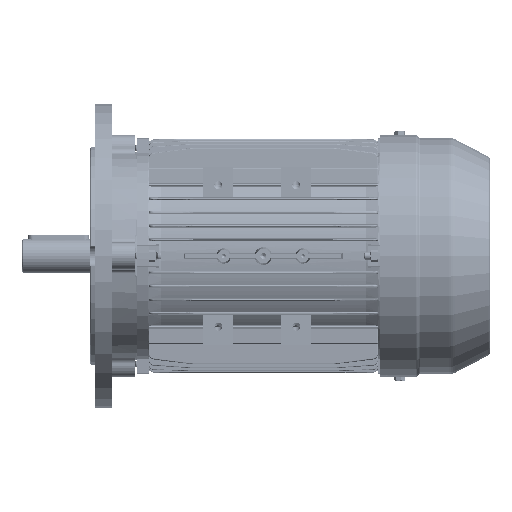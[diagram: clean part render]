
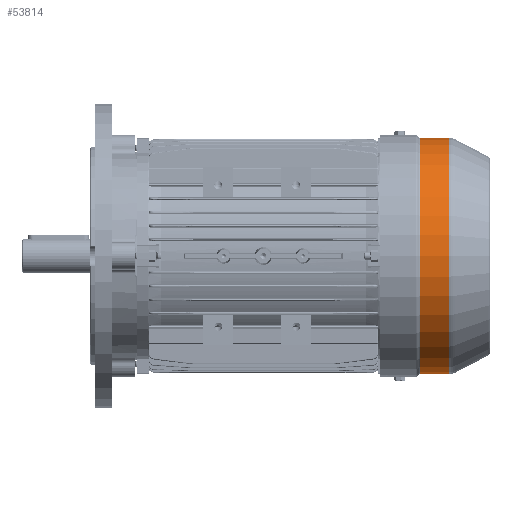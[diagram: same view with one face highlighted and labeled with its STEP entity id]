
A CAD part, front view. The second image highlights one B-rep face of the part: STEP entity #53814.
In plain terms, the highlighted cylindrical face has radius 97 mm (diameter 194 mm), a partial arc.
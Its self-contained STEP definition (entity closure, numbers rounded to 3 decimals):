
#2499 = DIRECTION ( 'NONE',  ( 0., 0., -1. ) ) ;
#3168 = DIRECTION ( 'NONE',  ( -1., 0., 0. ) ) ;
#4515 = VERTEX_POINT ( 'NONE', #115723 ) ;
#5273 = CARTESIAN_POINT ( 'NONE',  ( 0., 0., 97. ) ) ;
#7451 = VECTOR ( 'NONE', #133420, 1000. ) ;
#9372 = ORIENTED_EDGE ( 'NONE', *, *, #77071, .T. ) ;
#14860 = LINE ( 'NONE', #87953, #7451 ) ;
#17872 = AXIS2_PLACEMENT_3D ( 'NONE', #84195, #119729, #2499 ) ;
#21315 = VERTEX_POINT ( 'NONE', #105012 ) ;
#27601 = AXIS2_PLACEMENT_3D ( 'NONE', #144734, #3168, #134324 ) ;
#40966 = DIRECTION ( 'NONE',  ( -1., 0., 0. ) ) ;
#44653 = CARTESIAN_POINT ( 'NONE',  ( -32.828, 0., 97. ) ) ;
#47707 = CIRCLE ( 'NONE', #119861, 97. ) ;
#53814 = ADVANCED_FACE ( 'NONE', ( #143468 ), #110027, .T. ) ;
#68082 = EDGE_CURVE ( 'NONE', #4515, #99851, #47707, .T. ) ;
#73697 = ORIENTED_EDGE ( 'NONE', *, *, #68082, .T. ) ;
#77071 = EDGE_CURVE ( 'NONE', #21315, #131491, #104635, .T. ) ;
#79015 = EDGE_CURVE ( 'NONE', #99851, #21315, #134834, .T. ) ;
#84195 = CARTESIAN_POINT ( 'NONE',  ( -56.547, 0., 0. ) ) ;
#87953 = CARTESIAN_POINT ( 'NONE',  ( 0., 0., -97. ) ) ;
#89329 = ORIENTED_EDGE ( 'NONE', *, *, #94504, .F. ) ;
#94504 = EDGE_CURVE ( 'NONE', #4515, #131491, #14860, .T. ) ;
#96661 = DIRECTION ( 'NONE',  ( 0., 0., 1. ) ) ;
#99851 = VERTEX_POINT ( 'NONE', #44653 ) ;
#104635 = CIRCLE ( 'NONE', #17872, 97. ) ;
#105012 = CARTESIAN_POINT ( 'NONE',  ( -56.547, 0., 97. ) ) ;
#110027 = CYLINDRICAL_SURFACE ( 'NONE', #27601, 97. ) ;
#115723 = CARTESIAN_POINT ( 'NONE',  ( -32.828, 0., -97. ) ) ;
#116972 = CARTESIAN_POINT ( 'NONE',  ( -56.547, 0., -97. ) ) ;
#119729 = DIRECTION ( 'NONE',  ( 1., 0., 0. ) ) ;
#119861 = AXIS2_PLACEMENT_3D ( 'NONE', #134385, #119879, #96661 ) ;
#119879 = DIRECTION ( 'NONE',  ( -1., 0., 0. ) ) ;
#121937 = VECTOR ( 'NONE', #40966, 1000. ) ;
#129456 = ORIENTED_EDGE ( 'NONE', *, *, #79015, .T. ) ;
#131491 = VERTEX_POINT ( 'NONE', #116972 ) ;
#133420 = DIRECTION ( 'NONE',  ( -1., 0., 0. ) ) ;
#134324 = DIRECTION ( 'NONE',  ( 0., 0., 1. ) ) ;
#134385 = CARTESIAN_POINT ( 'NONE',  ( -32.828, 0., 0. ) ) ;
#134834 = LINE ( 'NONE', #5273, #121937 ) ;
#137929 = EDGE_LOOP ( 'NONE', ( #89329, #73697, #129456, #9372 ) ) ;
#143468 = FACE_OUTER_BOUND ( 'NONE', #137929, .T. ) ;
#144734 = CARTESIAN_POINT ( 'NONE',  ( 0., 0., 0. ) ) ;
